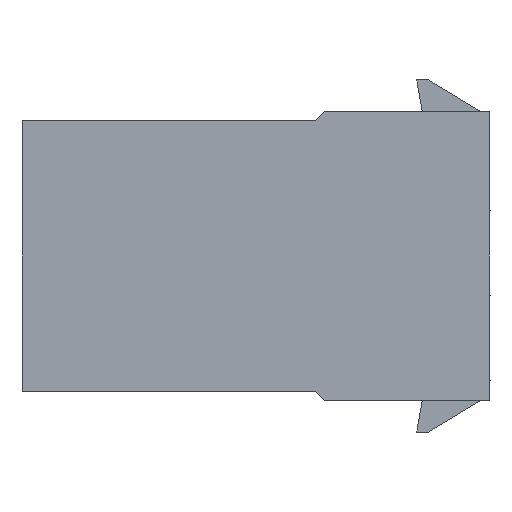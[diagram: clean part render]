
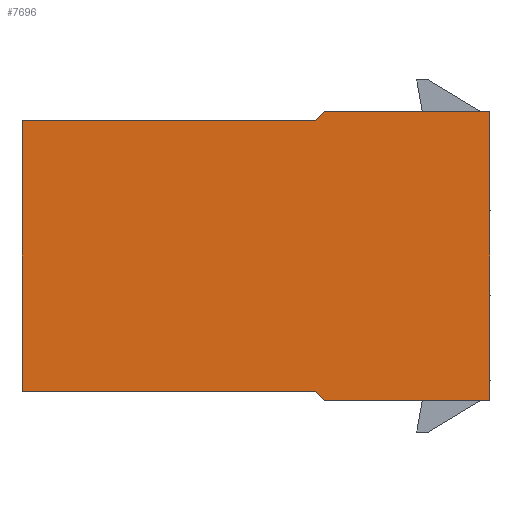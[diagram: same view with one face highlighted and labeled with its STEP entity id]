
A CAD part, front view. The second image highlights one B-rep face of the part: STEP entity #7696.
In plain terms, the highlighted planar face has unit normal (0, -1, 0).
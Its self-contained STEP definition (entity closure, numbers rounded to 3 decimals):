
#2855=DIRECTION('',(1.,0.,0.));
#2856=VECTOR('',#2855,9.95);
#2857=CARTESIAN_POINT('',(18.15,-7.6,13.75));
#2858=LINE('',#2857,#2856);
#2879=DIRECTION('',(0.707,0.,-0.707));
#2880=VECTOR('',#2879,0.778);
#2881=CARTESIAN_POINT('',(17.6,-7.6,-3.04));
#2882=LINE('',#2881,#2880);
#2883=DIRECTION('',(0.,0.,1.));
#2884=VECTOR('',#2883,16.24);
#2885=CARTESIAN_POINT('',(0.,-7.6,-3.04));
#2886=LINE('',#2885,#2884);
#2887=DIRECTION('',(-0.707,0.,-0.707));
#2888=VECTOR('',#2887,0.778);
#2889=CARTESIAN_POINT('',(18.15,-7.6,13.75));
#2890=LINE('',#2889,#2888);
#2891=DIRECTION('',(0.,0.,-1.));
#2892=VECTOR('',#2891,17.34);
#2893=CARTESIAN_POINT('',(28.1,-7.6,13.75));
#2894=LINE('',#2893,#2892);
#2907=DIRECTION('',(1.,0.,0.));
#2908=VECTOR('',#2907,17.6);
#2909=CARTESIAN_POINT('',(0.,-7.6,-3.04));
#2910=LINE('',#2909,#2908);
#2915=DIRECTION('',(1.,0.,0.));
#2916=VECTOR('',#2915,9.95);
#2917=CARTESIAN_POINT('',(18.15,-7.6,-3.59));
#2918=LINE('',#2917,#2916);
#3115=DIRECTION('',(1.,0.,0.));
#3116=VECTOR('',#3115,17.6);
#3117=CARTESIAN_POINT('',(0.,-7.6,13.2));
#3118=LINE('',#3117,#3116);
#3898=CARTESIAN_POINT('',(0.,-7.6,13.2));
#3900=VERTEX_POINT('',#3898);
#3923=CARTESIAN_POINT('',(28.1,-7.6,13.75));
#3924=VERTEX_POINT('',#3923);
#3926=CARTESIAN_POINT('',(0.,-7.6,-3.04));
#3928=VERTEX_POINT('',#3926);
#3951=CARTESIAN_POINT('',(28.1,-7.6,-3.59));
#3952=VERTEX_POINT('',#3951);
#3957=CARTESIAN_POINT('',(17.6,-7.6,-3.04));
#3958=VERTEX_POINT('',#3957);
#3959=CARTESIAN_POINT('',(18.15,-7.6,-3.59));
#3960=VERTEX_POINT('',#3959);
#3961=CARTESIAN_POINT('',(18.15,-7.6,13.75));
#3962=CARTESIAN_POINT('',(17.6,-7.6,13.2));
#3963=VERTEX_POINT('',#3961);
#3964=VERTEX_POINT('',#3962);
#7677=CARTESIAN_POINT('',(0.,-7.6,-2.54));
#7678=DIRECTION('',(0.,-1.,0.));
#7679=DIRECTION('',(1.,0.,0.));
#7680=AXIS2_PLACEMENT_3D('',#7677,#7678,#7679);
#7681=PLANE('',#7680);
#7683=ORIENTED_EDGE('',*,*,#7682,.F.);
#7685=ORIENTED_EDGE('',*,*,#7684,.F.);
#7686=ORIENTED_EDGE('',*,*,#4538,.T.);
#7688=ORIENTED_EDGE('',*,*,#7687,.T.);
#7689=ORIENTED_EDGE('',*,*,#7668,.F.);
#7690=ORIENTED_EDGE('',*,*,#7640,.T.);
#7691=ORIENTED_EDGE('',*,*,#7358,.T.);
#7693=ORIENTED_EDGE('',*,*,#7692,.F.);
#7694=EDGE_LOOP('',(#7683,#7685,#7686,#7688,#7689,#7690,#7691,#7693));
#7695=FACE_OUTER_BOUND('',#7694,.F.);
#7696=ADVANCED_FACE('',(#7695),#7681,.T.);
#4538=EDGE_CURVE('',#3928,#3900,#2886,.T.);
#7358=EDGE_CURVE('',#3924,#3952,#2894,.T.);
#7640=EDGE_CURVE('',#3963,#3924,#2858,.T.);
#7668=EDGE_CURVE('',#3963,#3964,#2890,.T.);
#7682=EDGE_CURVE('',#3958,#3960,#2882,.T.);
#7684=EDGE_CURVE('',#3928,#3958,#2910,.T.);
#7687=EDGE_CURVE('',#3900,#3964,#3118,.T.);
#7692=EDGE_CURVE('',#3960,#3952,#2918,.T.);
